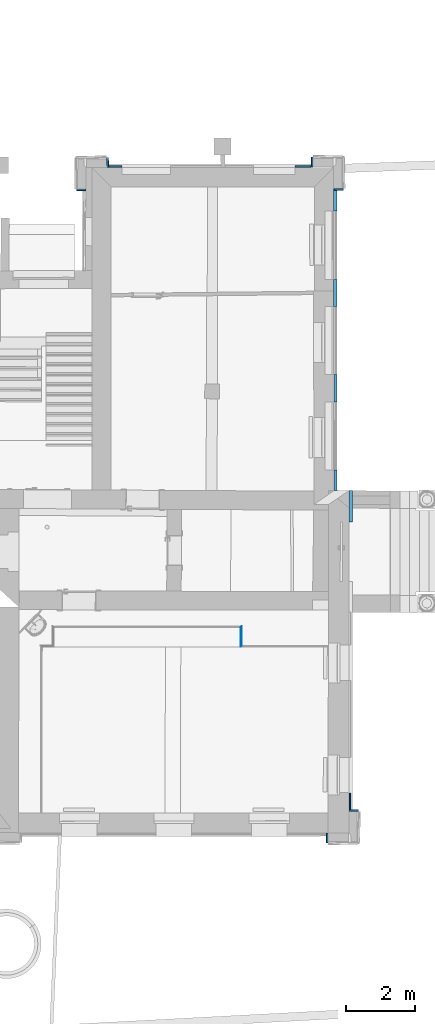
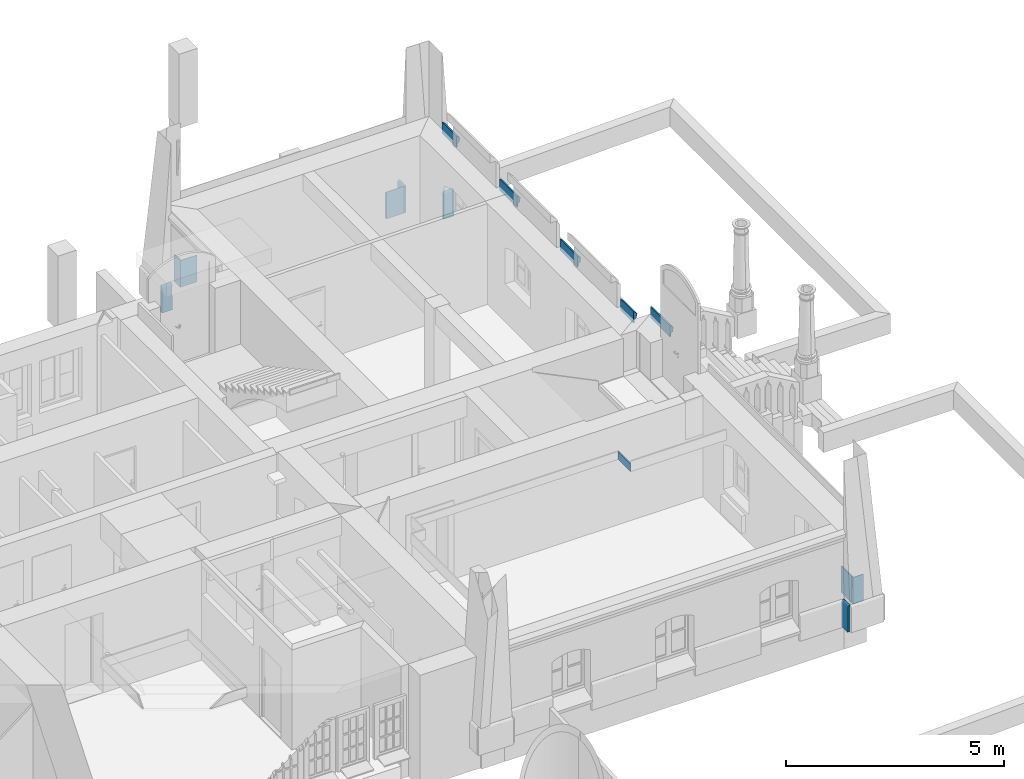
# One storey, part 61 of 196: 15 walls.
"""IFC2X3 building model written with IfcOpenShell, lengths in metres."""

from ifc_helpers import new_model, entity, si_unit, converted_unit, derived_unit, money_unit, point, direction, frame, frame_2d, origin_with_axes, place, context, subcontext, project, spatial, polyline, circle_curve, parameter, trimmed, segment, composite_curve, outline, extrude, material, layer, layer_set, layer_usage, type_object, element, save


model = new_model("IFC2X3")

# Units and contexts
model_context = context("Model", 3, precision=1e-05, world=origin_with_axes(), true_north=direction((0.0, 1.0)))
body_context = subcontext(model_context, "Body", "Model", "MODEL_VIEW")
ifc_project = project(units=[si_unit("LENGTHUNIT", "METRE"), si_unit("AREAUNIT", "SQUARE_METRE"), si_unit("VOLUMEUNIT", "CUBIC_METRE"), converted_unit("PLANEANGLEUNIT", "DEGREE", entity("IfcPlaneAngleMeasure", 0.0174532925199), si_unit("PLANEANGLEUNIT", "RADIAN"), dimensions=[0, 0, 0, 0, 0, 0, 0]), money_unit("EUR"), converted_unit("TIMEUNIT", "Year", entity("IfcTimeMeasure", 31556926.0), si_unit("TIMEUNIT", "SECOND"), dimensions=[0, 0, 1, 0, 0, 0, 0]), si_unit("MASSUNIT", "GRAM", prefix="KILO"), si_unit("THERMODYNAMICTEMPERATUREUNIT", "DEGREE_CELSIUS"), si_unit("LUMINOUSINTENSITYUNIT", "LUMEN"), si_unit("ENERGYUNIT", "JOULE", prefix="MEGA"), derived_unit("THERMALCONDUCTANCEUNIT", [(si_unit("POWERUNIT", "WATT"), 1), (si_unit("LENGTHUNIT", "METRE"), -1), (si_unit("THERMODYNAMICTEMPERATUREUNIT", "KELVIN"), -1)]), derived_unit("SPECIFICHEATCAPACITYUNIT", [(si_unit("ENERGYUNIT", "JOULE"), 1), (si_unit("MASSUNIT", "GRAM", prefix="KILO"), -1), (si_unit("THERMODYNAMICTEMPERATUREUNIT", "KELVIN"), -1)]), derived_unit("MASSDENSITYUNIT", [(si_unit("MASSUNIT", "GRAM", prefix="KILO"), 1), (si_unit("VOLUMEUNIT", "CUBIC_METRE"), -1)])], contexts=[model_context])

# Site, building, storey
site_placement = place(None, origin_with_axes())
site = spatial("IfcSite", under=ifc_project, at=site_placement, Name="Gelände", CompositionType="ELEMENT")
building_placement = place(site_placement, origin_with_axes())
building = spatial("IfcBuilding", under=site, at=building_placement, Name="Gebäude", CompositionType="ELEMENT")
storey_placement = place(building_placement, frame((0.0, 0.0, -3.0), z_axis=(0.0, 0.0, 1.0), x_axis=(1.0, 0.0, 0.0)))
storey = spatial("IfcBuildingStorey", under=building, at=storey_placement, Name="KELLERGESCHOSS", CompositionType="ELEMENT", Elevation=-3.0)

# Walls
ifc_material_1 = material(Name="43_Gipskarton")
ifc_layer = layer(ifc_material_1, 0.03, ventilated="UNKNOWN")
ifc_layer_set = layer_set([ifc_layer], Name="43_Gipskarton 0.03")
ifc_layer_usage = layer_usage(ifc_layer_set, "AXIS2", "NEGATIVE", 0.0)
wall_type_1 = type_object("IfcWallType", Name="43_Gipskarton 30", PredefinedType="ELEMENTEDWALL")
wall_1_placement = place(storey_placement, frame((28.9803442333, 15.2758990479, 2.22), z_axis=(0.0, 0.0, 1.0), x_axis=(0.00193353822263, 0.999998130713, 0.0)))
element("IfcWallStandardCase", 1, at=wall_1_placement, inside=storey, type_object=wall_type_1, material=ifc_layer_usage, Name="Wand-072", ObjectType="ELEMENTEDWALL", context=body_context, shape_type="SweptSolid", body=[
    extrude(outline(polyline([(0.030061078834, -0.03), (0.599588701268, -0.03), (0.569536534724, 0.0), (0.0, 0.0), (0.030061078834, -0.03)])), origin_with_axes(), (0.0, 0.0, 1.0), 0.22),
])
ifc_material_2 = material(Name="01_ALLGEMEIN - BAUTEIL")
wall_type_2 = type_object("IfcWallType", Name="Fassade Sims 2 100 x 317", PredefinedType="ELEMENTEDWALL")
wall_2_placement = place(storey_placement, frame((31.6750351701, 25.9269264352, 3.0001877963), z_axis=(0.0, 0.0, 1.0), x_axis=(0.000336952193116, -0.999999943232, 0.0)))
element("IfcWall", 2, at=wall_2_placement, inside=storey, type_object=wall_type_2, material=ifc_material_2, Name="Wand-072", ObjectType="ELEMENTEDWALL", context=body_context, shape_type="SweptSolid", body=[
    extrude(outline(composite_curve([segment(polyline([(0.0803683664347, -0.186906), (0.0895185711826, -0.093362), (0.0995232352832, -0.087582), (0.0998272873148, -0.082979), (0.0954028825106, -0.076844), (0.0345157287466, -0.016522), (0.0, 0.0), (0.0, -0.316717), (0.0018235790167, -0.316717), (0.0200141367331, -0.312632), (0.0311727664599, -0.240312)]), True, "CONTINUOUS"), segment(trimmed(circle_curve(frame_2d((0.0901432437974, -0.245271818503), x_axis=(-0.165175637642, 0.986264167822)), 0.0591786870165), [point((0.0311727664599, -0.240312)), parameter(75.6849122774)], [point((0.0803683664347, -0.186906)), parameter(0.0)], False, "CARTESIAN"), True, "CONTINUOUS")], self_intersect=False)), frame((0.0, 0.0, 0.0), z_axis=(1.0, 0.0, 0.0), x_axis=(0.0, 1.0, 0.0)), (0.0, 0.0, 1.0), 0.786961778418),
])
wall_3_placement = place(storey_placement, frame((31.6768990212, 20.3954265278, 3.0001877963), z_axis=(0.0, 0.0, 1.0), x_axis=(0.000336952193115, -0.999999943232, 0.0)))
element("IfcWall", 3, at=wall_3_placement, inside=storey, type_object=wall_type_2, material=ifc_material_2, Name="Wand-072", ObjectType="ELEMENTEDWALL", context=body_context, shape_type="SweptSolid", body=[
    extrude(outline(composite_curve([segment(polyline([(0.0803683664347, -0.186906), (0.0895185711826, -0.093362), (0.0995232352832, -0.087582), (0.0998272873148, -0.082979), (0.0954028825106, -0.076844), (0.0345157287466, -0.016522), (0.0, 0.0), (0.0, -0.316717), (0.0018235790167, -0.316717), (0.0200141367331, -0.312632), (0.0311727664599, -0.240312)]), True, "CONTINUOUS"), segment(trimmed(circle_curve(frame_2d((0.0901432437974, -0.245271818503), x_axis=(-0.165175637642, 0.986264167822)), 0.0591786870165), [point((0.0311727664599, -0.240312)), parameter(75.6849122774)], [point((0.0803683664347, -0.186906)), parameter(0.0)], False, "CARTESIAN"), True, "CONTINUOUS")], self_intersect=False)), frame((0.0, 0.0, 0.0), z_axis=(1.0, 0.0, 0.0), x_axis=(0.0, 1.0, 0.0)), (0.0, 0.0, 1.0), 0.593514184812),
])
wall_4_placement = place(storey_placement, frame((31.6741489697, 28.556974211, 3.0001877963), z_axis=(0.0, 0.0, 1.0), x_axis=(0.000336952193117, -0.999999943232, 0.0)))
element("IfcWall", 4, at=wall_4_placement, inside=storey, type_object=wall_type_2, material=ifc_material_2, Name="Wand-072", ObjectType="ELEMENTEDWALL", context=body_context, shape_type="SweptSolid", body=[
    extrude(outline(composite_curve([segment(polyline([(0.0803683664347, -0.186906), (0.0895185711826, -0.093362), (0.0995232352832, -0.087582), (0.0998272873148, -0.082979), (0.0954028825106, -0.076844), (0.0345157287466, -0.016522), (0.0, 0.0), (0.0, -0.316717), (0.0018235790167, -0.316717), (0.0200141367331, -0.312632), (0.0311727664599, -0.240312)]), True, "CONTINUOUS"), segment(trimmed(circle_curve(frame_2d((0.0901432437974, -0.245271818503), x_axis=(-0.165175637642, 0.986264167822)), 0.0591786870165), [point((0.0311727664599, -0.240312)), parameter(75.6849122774)], [point((0.0803683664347, -0.186906)), parameter(0.0)], False, "CARTESIAN"), True, "CONTINUOUS")], self_intersect=False)), frame((0.0, 0.0, 0.0), z_axis=(1.0, 0.0, 0.0), x_axis=(0.0, 1.0, 0.0)), (0.0, 0.0, 1.0), 0.652046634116),
])
wall_5_placement = place(storey_placement, frame((32.1207494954, 19.80428634, 3.0001877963), z_axis=(0.0, 0.0, 1.0), x_axis=(-0.000762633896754, -0.999999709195, 0.0)))
element("IfcWall", 5, at=wall_5_placement, inside=storey, type_object=wall_type_2, material=ifc_material_2, Name="Wand-072", ObjectType="ELEMENTEDWALL", context=body_context, shape_type="SweptSolid", body=[
    extrude(outline(composite_curve([segment(polyline([(0.0803683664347, -0.186906), (0.0895185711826, -0.093362), (0.0995232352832, -0.087582), (0.0998272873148, -0.082979), (0.0954028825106, -0.076844), (0.0345157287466, -0.016522), (0.0, 0.0), (0.0, -0.316717), (0.0018235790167, -0.316717), (0.0200141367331, -0.312632), (0.0311727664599, -0.240312)]), True, "CONTINUOUS"), segment(trimmed(circle_curve(frame_2d((0.0901432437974, -0.245271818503), x_axis=(-0.165175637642, 0.986264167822)), 0.0591786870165), [point((0.0311727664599, -0.240312)), parameter(75.6849122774)], [point((0.0803683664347, -0.186906)), parameter(0.0)], False, "CARTESIAN"), True, "CONTINUOUS")], self_intersect=False)), frame((0.0, 0.0, 0.0), z_axis=(1.0, 0.0, 0.0), x_axis=(0.0, 1.0, 0.0)), (0.0, 0.0, 1.0), 0.902671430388),
])
wall_6_placement = place(storey_placement, frame((31.6759668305, 23.1619635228, 3.0001877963), z_axis=(0.0, 0.0, 1.0), x_axis=(0.000336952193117, -0.999999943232, 0.0)))
element("IfcWall", 6, at=wall_6_placement, inside=storey, type_object=wall_type_2, material=ifc_material_2, Name="Wand-072", ObjectType="ELEMENTEDWALL", context=body_context, shape_type="SweptSolid", body=[
    extrude(outline(composite_curve([segment(polyline([(0.0803683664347, -0.186906), (0.0895185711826, -0.093362), (0.0995232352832, -0.087582), (0.0998272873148, -0.082979), (0.0954028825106, -0.076844), (0.0345157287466, -0.016522), (0.0, 0.0), (0.0, -0.316717), (0.0018235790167, -0.316717), (0.0200141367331, -0.312632), (0.0311727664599, -0.240312)]), True, "CONTINUOUS"), segment(trimmed(circle_curve(frame_2d((0.0901432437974, -0.245271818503), x_axis=(-0.165175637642, 0.986264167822)), 0.0591786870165), [point((0.0311727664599, -0.240312)), parameter(75.6849122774)], [point((0.0803683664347, -0.186906)), parameter(0.0)], False, "CARTESIAN"), True, "CONTINUOUS")], self_intersect=False)), frame((0.0, 0.0, 0.0), z_axis=(1.0, 0.0, 0.0), x_axis=(0.0, 1.0, 0.0)), (0.0, 0.0, 1.0), 0.788535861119),
])
wall_type_3 = type_object("IfcWallType", Name="Sockel 1 59 x 750", PredefinedType="ELEMENTEDWALL")
wall_7_placement = place(storey_placement, frame((25.0997744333, 29.163437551, 1.05914340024), z_axis=(0.0, 0.0, 1.0), x_axis=(0.999999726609, 0.000739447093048, 0.0)))
element("IfcWall", 7, at=wall_7_placement, inside=storey, type_object=wall_type_3, material=ifc_material_2, Name="Wand-074", ObjectType="ELEMENTEDWALL", context=body_context, shape_type="SweptSolid", body=[
    extrude(outline(composite_curve([segment(polyline([(0.0582254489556, -0.75), (0.0575648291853, -0.072488)]), True, "CONTINUOUS"), segment(trimmed(circle_curve(frame_2d((0.00752199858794, -0.0589368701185), x_axis=(0.965236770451, -0.261377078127)), 0.0518451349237), [point((0.0575648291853, -0.072488)), parameter(0.0)], [point((0.0162927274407, -0.007839)), parameter(95.4121261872)], True, "CARTESIAN"), True, "CONTINUOUS"), segment(polyline([(0.0162927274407, -0.007839), (0.00232171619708, 0.0), (0.0, 0.0), (0.0, -0.75), (0.0582254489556, -0.75)]), True, "CONTINUOUS")], self_intersect=False)), frame((0.0, 0.0, 0.0), z_axis=(1.0, 0.0, 0.0), x_axis=(0.0, 1.0, 0.0)), (0.0, 0.0, 1.0), 0.444809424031),
])
wall_8_placement = place(storey_placement, frame((30.5483279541, 29.1674664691, 1.05914340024), z_axis=(0.0, 0.0, 1.0), x_axis=(0.999999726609, 0.000739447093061, 0.0)))
element("IfcWall", 8, at=wall_8_placement, inside=storey, type_object=wall_type_3, material=ifc_material_2, Name="Wand-075", ObjectType="ELEMENTEDWALL", context=body_context, shape_type="SweptSolid", body=[
    extrude(outline(composite_curve([segment(polyline([(0.0582254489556, -0.75), (0.0575648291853, -0.072488)]), True, "CONTINUOUS"), segment(trimmed(circle_curve(frame_2d((0.00752199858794, -0.0589368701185), x_axis=(0.965236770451, -0.261377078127)), 0.0518451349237), [point((0.0575648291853, -0.072488)), parameter(0.0)], [point((0.0162927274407, -0.007839)), parameter(95.4121261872)], True, "CARTESIAN"), True, "CONTINUOUS"), segment(polyline([(0.0162927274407, -0.007839), (0.00232171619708, 0.0), (0.0, 0.0), (0.0, -0.75), (0.0582254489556, -0.75)]), True, "CONTINUOUS")], self_intersect=False)), frame((0.0, 0.0, 0.0), z_axis=(1.0, 0.0, 0.0), x_axis=(0.0, 1.0, 0.0)), (0.0, 0.0, 1.0), 0.473272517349),
])
wall_9_placement = place(storey_placement, frame((32.1135409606, 10.5088578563, 1.05914340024), z_axis=(0.0, 0.0, 1.0), x_axis=(0.999958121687, -0.00915176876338, 0.0)))
element("IfcWall", 9, at=wall_9_placement, inside=storey, type_object=wall_type_3, material=ifc_material_2, Name="Wand-076", ObjectType="ELEMENTEDWALL", context=body_context, shape_type="SweptSolid", body=[
    extrude(outline(composite_curve([segment(polyline([(0.0582254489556, -0.75), (0.0575648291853, -0.072488)]), True, "CONTINUOUS"), segment(trimmed(circle_curve(frame_2d((0.00752199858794, -0.0589368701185), x_axis=(0.965236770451, -0.261377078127)), 0.0518451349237), [point((0.0575648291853, -0.072488)), parameter(0.0)], [point((0.0162927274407, -0.007839)), parameter(95.4121261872)], True, "CARTESIAN"), True, "CONTINUOUS"), segment(polyline([(0.0162927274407, -0.007839), (0.00232171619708, 0.0), (0.0, 0.0), (0.0, -0.75), (0.0582254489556, -0.75)]), True, "CONTINUOUS")], self_intersect=False)), frame((0.0, 0.0, 0.0), z_axis=(1.0, 0.0, 0.0), x_axis=(0.0, 1.0, 0.0)), (0.0, 0.0, 1.0), 0.274455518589),
])
wall_10_placement = place(storey_placement, frame((32.1140745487, 11.0517973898, 1.05914340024), z_axis=(0.0, 0.0, 1.0), x_axis=(-0.000762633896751, -0.999999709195, 0.0)))
element("IfcWall", 10, at=wall_10_placement, inside=storey, type_object=wall_type_3, material=ifc_material_2, Name="Wand-076", ObjectType="ELEMENTEDWALL", context=body_context, shape_type="SweptSolid", body=[
    extrude(outline(composite_curve([segment(polyline([(0.0582254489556, -0.75), (0.0575648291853, -0.072488)]), True, "CONTINUOUS"), segment(trimmed(circle_curve(frame_2d((0.00752199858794, -0.0589368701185), x_axis=(0.965236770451, -0.261377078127)), 0.0518451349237), [point((0.0575648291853, -0.072488)), parameter(0.0)], [point((0.0162927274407, -0.007839)), parameter(95.4121261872)], True, "CARTESIAN"), True, "CONTINUOUS"), segment(polyline([(0.0162927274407, -0.007839), (0.00232171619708, 0.0), (0.0, 0.0), (0.0, -0.75), (0.0582254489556, -0.75)]), True, "CONTINUOUS")], self_intersect=False)), frame((0.0, 0.0, 0.0), z_axis=(1.0, 0.0, 0.0), x_axis=(0.0, 1.0, 0.0)), (0.0, 0.0, 1.0), 0.485103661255),
])
wall_11_placement = place(storey_placement, frame((31.6762271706, 28.5569719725, 1.05914340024), z_axis=(0.0, 0.0, 1.0), x_axis=(0.999958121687, 0.00915176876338, 0.0)))
element("IfcWall", 11, at=wall_11_placement, inside=storey, type_object=wall_type_3, material=ifc_material_2, Name="Wand-076", ObjectType="ELEMENTEDWALL", context=body_context, shape_type="SweptSolid", body=[
    extrude(outline(composite_curve([segment(polyline([(0.0582254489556, -0.75), (0.0575648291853, -0.072488)]), True, "CONTINUOUS"), segment(trimmed(circle_curve(frame_2d((0.00752199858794, -0.0589368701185), x_axis=(0.965236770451, -0.261377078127)), 0.0518451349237), [point((0.0575648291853, -0.072488)), parameter(0.0)], [point((0.0162927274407, -0.007839)), parameter(95.4121261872)], True, "CARTESIAN"), True, "CONTINUOUS"), segment(polyline([(0.0162927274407, -0.007839), (0.00232171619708, 0.0), (0.0, 0.0), (0.0, -0.75), (0.0582254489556, -0.75)]), True, "CONTINUOUS")], self_intersect=False)), frame((0.0, 0.0, 0.0), z_axis=(-1.0, 0.0, 0.0), x_axis=(0.0, -1.0, 0.0)), (0.0, 0.0, -1.0), 0.274455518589),
])
wall_12_placement = place(storey_placement, frame((24.4947851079, 28.542490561, 1.05914340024), z_axis=(0.0, 0.0, 1.0), x_axis=(-0.999958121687, 0.00915176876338, 0.0)))
element("IfcWall", 12, at=wall_12_placement, inside=storey, type_object=wall_type_3, material=ifc_material_2, Name="Wand-076", ObjectType="ELEMENTEDWALL", context=body_context, shape_type="SweptSolid", body=[
    extrude(outline(composite_curve([segment(polyline([(0.0582254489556, -0.75), (0.0575648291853, -0.072488)]), True, "CONTINUOUS"), segment(trimmed(circle_curve(frame_2d((0.00752199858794, -0.0589368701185), x_axis=(0.965236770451, -0.261377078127)), 0.0518451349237), [point((0.0575648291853, -0.072488)), parameter(0.0)], [point((0.0162927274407, -0.007839)), parameter(95.4121261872)], True, "CARTESIAN"), True, "CONTINUOUS"), segment(polyline([(0.0162927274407, -0.007839), (0.00232171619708, 0.0), (0.0, 0.0), (0.0, -0.75), (0.0582254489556, -0.75)]), True, "CONTINUOUS")], self_intersect=False)), frame((0.0, 0.0, 0.0), z_axis=(1.0, 0.0, 0.0), x_axis=(0.0, 1.0, 0.0)), (0.0, 0.0, 1.0), 0.274455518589),
])
for number, where, z_axis, x_axis, name in (
    (13, (31.5112142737, 9.60074574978, 1.05914340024), (0.0, 0.0, 1.0), (-0.00927175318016, 0.999957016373, 0.0), "Wand-079"),
    (14, (25.0971117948, 29.4506026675, 1.05914340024), (0.0, 0.0, 1.0), (0.00927175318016, -0.999957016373, 0.0), "Wand-079"),
):
    element("IfcWall", number, at=place(storey_placement, frame(where, z_axis=z_axis, x_axis=x_axis)), inside=storey, type_object=wall_type_3, material=ifc_material_2, Name=name, ObjectType="ELEMENTEDWALL", context=body_context, shape_type="SweptSolid", body=[
        extrude(outline(composite_curve([segment(polyline([(0.0582254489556, -0.75), (0.0575648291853, -0.072488)]), True, "CONTINUOUS"), segment(trimmed(circle_curve(frame_2d((0.00752199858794, -0.0589368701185), x_axis=(0.965236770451, -0.261377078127)), 0.0518451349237), [point((0.0575648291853, -0.072488)), parameter(0.0)], [point((0.0162927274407, -0.007839)), parameter(95.4121261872)], True, "CARTESIAN"), True, "CONTINUOUS"), segment(polyline([(0.0162927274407, -0.007839), (0.00232171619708, 0.0), (0.0, 0.0), (0.0, -0.75), (0.0582254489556, -0.75)]), True, "CONTINUOUS")], self_intersect=False)), frame((0.0, 0.0, 0.0), z_axis=(1.0, 0.0, 0.0), x_axis=(0.0, 1.0, 0.0)), (0.0, 0.0, 1.0), 0.287177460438),
    ])
wall_13_placement = place(storey_placement, frame((31.0739004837, 29.465084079, 1.05914340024), z_axis=(0.0, 0.0, 1.0), x_axis=(-0.00927175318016, -0.999957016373, 0.0)))
element("IfcWall", 15, at=wall_13_placement, inside=storey, type_object=wall_type_3, material=ifc_material_2, Name="Wand-079", ObjectType="ELEMENTEDWALL", context=body_context, shape_type="SweptSolid", body=[
    extrude(outline(composite_curve([segment(polyline([(0.0582254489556, -0.75), (0.0575648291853, -0.072488)]), True, "CONTINUOUS"), segment(trimmed(circle_curve(frame_2d((0.00752199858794, -0.0589368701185), x_axis=(0.965236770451, -0.261377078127)), 0.0518451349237), [point((0.0575648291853, -0.072488)), parameter(0.0)], [point((0.0162927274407, -0.007839)), parameter(95.4121261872)], True, "CARTESIAN"), True, "CONTINUOUS"), segment(polyline([(0.0162927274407, -0.007839), (0.00232171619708, 0.0), (0.0, 0.0), (0.0, -0.75), (0.0582254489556, -0.75)]), True, "CONTINUOUS")], self_intersect=False)), frame((0.0, 0.0, 0.0), z_axis=(-1.0, 0.0, 0.0), x_axis=(0.0, -1.0, 0.0)), (0.0, 0.0, -1.0), 0.287177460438),
])

save(model, "model.ifc")
